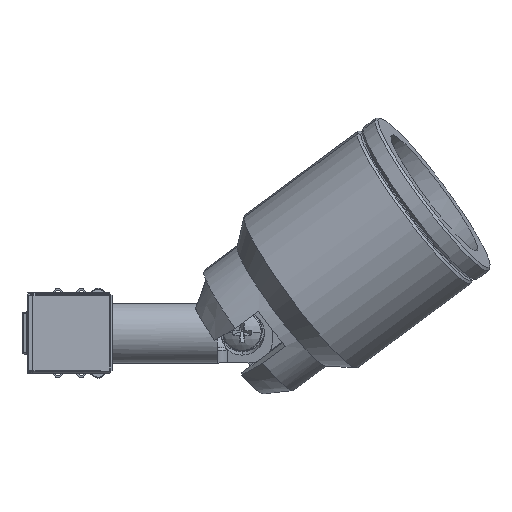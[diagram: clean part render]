
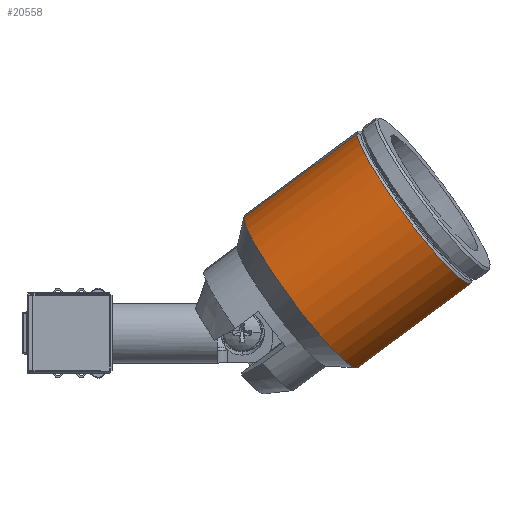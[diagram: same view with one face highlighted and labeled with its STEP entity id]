
A CAD part, left-side view. The second image highlights one B-rep face of the part: STEP entity #20558.
In plain terms, the highlighted cylindrical face has radius 19 mm (diameter 38 mm), a partial arc.
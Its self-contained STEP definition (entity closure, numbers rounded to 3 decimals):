
#241 = CARTESIAN_POINT ( 'NONE',  ( 0., 46.212, 0. ) ) ;
#355 = EDGE_CURVE ( 'NONE', #26636, #54625, #48205, .T. ) ;
#438 = DIRECTION ( 'NONE',  ( 0., 0., -1. ) ) ;
#515 = LINE ( 'NONE', #3691, #7322 ) ;
#2418 = VECTOR ( 'NONE', #47161, 1000. ) ;
#2564 = ORIENTED_EDGE ( 'NONE', *, *, #50522, .T. ) ;
#3463 = CARTESIAN_POINT ( 'NONE',  ( 0., 17.705, -19. ) ) ;
#3691 = CARTESIAN_POINT ( 'NONE',  ( 0., -3.874, 19. ) ) ;
#4549 = AXIS2_PLACEMENT_3D ( 'NONE', #241, #59013, #438 ) ;
#4615 = CIRCLE ( 'NONE', #32553, 19. ) ;
#7322 = VECTOR ( 'NONE', #52405, 1000. ) ;
#9897 = DIRECTION ( 'NONE',  ( 0., 0., -1. ) ) ;
#12368 = AXIS2_PLACEMENT_3D ( 'NONE', #39566, #58448, #25046 ) ;
#12945 = CARTESIAN_POINT ( 'NONE',  ( 0., 46.212, 19. ) ) ;
#20558 = ADVANCED_FACE ( 'NONE', ( #30449 ), #61080, .T. ) ;
#21878 = EDGE_CURVE ( 'NONE', #26636, #42201, #515, .T. ) ;
#25046 = DIRECTION ( 'NONE',  ( 0., 0., -1. ) ) ;
#26636 = VERTEX_POINT ( 'NONE', #12945 ) ;
#30449 = FACE_OUTER_BOUND ( 'NONE', #53047, .T. ) ;
#32168 = LINE ( 'NONE', #56236, #2418 ) ;
#32553 = AXIS2_PLACEMENT_3D ( 'NONE', #53748, #39583, #9897 ) ;
#35976 = VERTEX_POINT ( 'NONE', #3463 ) ;
#39566 = CARTESIAN_POINT ( 'NONE',  ( 0., -3.874, 0. ) ) ;
#39583 = DIRECTION ( 'NONE',  ( 0., -1., 0. ) ) ;
#42201 = VERTEX_POINT ( 'NONE', #54007 ) ;
#47161 = DIRECTION ( 'NONE',  ( 0., -1., 0. ) ) ;
#47866 = ORIENTED_EDGE ( 'NONE', *, *, #51314, .F. ) ;
#48205 = CIRCLE ( 'NONE', #4549, 19. ) ;
#50522 = EDGE_CURVE ( 'NONE', #54625, #35976, #32168, .T. ) ;
#51314 = EDGE_CURVE ( 'NONE', #42201, #35976, #4615, .T. ) ;
#52405 = DIRECTION ( 'NONE',  ( 0., -1., 0. ) ) ;
#53005 = ORIENTED_EDGE ( 'NONE', *, *, #21878, .F. ) ;
#53047 = EDGE_LOOP ( 'NONE', ( #53005, #54716, #2564, #47866 ) ) ;
#53748 = CARTESIAN_POINT ( 'NONE',  ( 0., 17.705, 0. ) ) ;
#54007 = CARTESIAN_POINT ( 'NONE',  ( 0., 17.705, 19. ) ) ;
#54625 = VERTEX_POINT ( 'NONE', #61333 ) ;
#54716 = ORIENTED_EDGE ( 'NONE', *, *, #355, .T. ) ;
#56236 = CARTESIAN_POINT ( 'NONE',  ( 0., -3.874, -19. ) ) ;
#58448 = DIRECTION ( 'NONE',  ( 0., -1., 0. ) ) ;
#59013 = DIRECTION ( 'NONE',  ( 0., -1., 0. ) ) ;
#61080 = CYLINDRICAL_SURFACE ( 'NONE', #12368, 19. ) ;
#61333 = CARTESIAN_POINT ( 'NONE',  ( 0., 46.212, -19. ) ) ;
